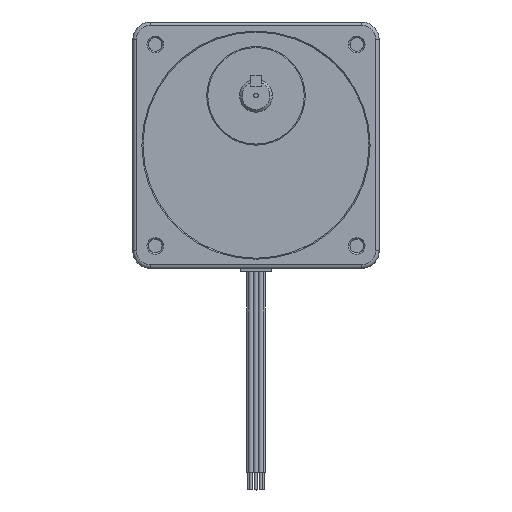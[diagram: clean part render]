
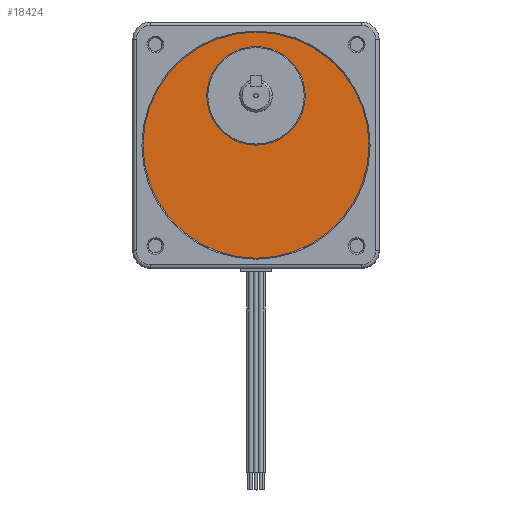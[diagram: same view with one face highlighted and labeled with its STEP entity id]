
A CAD part, top view. The second image highlights one B-rep face of the part: STEP entity #18424.
In plain terms, the highlighted planar face has unit normal (0, 0, 1).
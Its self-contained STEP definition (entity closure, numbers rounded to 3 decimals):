
#6746 = CARTESIAN_POINT ( 'NONE',  ( 17.996, 18.009, 41.012 ) ) ;
#7192 = CIRCLE ( 'NONE', #7262, 17.996 ) ;
#7259 = DIRECTION ( 'NONE',  ( 1., 0., 0. ) ) ;
#7260 = DIRECTION ( 'NONE',  ( 0., 0., 1. ) ) ;
#7261 = CARTESIAN_POINT ( 'NONE',  ( 0., 18.009, 41.012 ) ) ;
#7262 = AXIS2_PLACEMENT_3D ( 'NONE', #7261, #7260, #7259 ) ;
#7282 = CIRCLE ( 'NONE', #7312, 41.275 ) ;
#7284 = CARTESIAN_POINT ( 'NONE',  ( 0., 0., 41.012 ) ) ;
#7304 = CARTESIAN_POINT ( 'NONE',  ( -41.275, 0., 41.012 ) ) ;
#7306 = CARTESIAN_POINT ( 'NONE',  ( 41.275, 0., 41.012 ) ) ;
#7309 = CARTESIAN_POINT ( 'NONE',  ( -17.996, 18.009, 41.012 ) ) ;
#7310 = DIRECTION ( 'NONE',  ( 1., 0., 0. ) ) ;
#7311 = DIRECTION ( 'NONE',  ( 0., 0., 1. ) ) ;
#7312 = AXIS2_PLACEMENT_3D ( 'NONE', #7284, #7311, #7310 ) ;
#11025 = CIRCLE ( 'NONE', #11052, 41.275 ) ;
#11050 = DIRECTION ( 'NONE',  ( 1., 0., 0. ) ) ;
#11051 = DIRECTION ( 'NONE',  ( 0., 0., 1. ) ) ;
#11052 = AXIS2_PLACEMENT_3D ( 'NONE', #11059, #11051, #11050 ) ;
#11059 = CARTESIAN_POINT ( 'NONE',  ( 0., 0., 41.012 ) ) ;
#11138 = FACE_BOUND ( 'NONE', #18422, .T. ) ;
#11167 = FACE_OUTER_BOUND ( 'NONE', #18349, .T. ) ;
#11194 = DIRECTION ( 'NONE',  ( 1., 0., 0. ) ) ;
#11195 = DIRECTION ( 'NONE',  ( 0., 0., 1. ) ) ;
#11196 = CARTESIAN_POINT ( 'NONE',  ( 0., 18.009, 41.012 ) ) ;
#11197 = AXIS2_PLACEMENT_3D ( 'NONE', #11196, #11195, #11194 ) ;
#11208 = CIRCLE ( 'NONE', #11197, 17.996 ) ;
#11209 = DIRECTION ( 'NONE',  ( 1., 0., 0. ) ) ;
#11210 = DIRECTION ( 'NONE',  ( 0., 0., 1. ) ) ;
#11211 = CARTESIAN_POINT ( 'NONE',  ( 0., 0., 41.012 ) ) ;
#11212 = AXIS2_PLACEMENT_3D ( 'NONE', #11211, #11210, #11209 ) ;
#11213 = PLANE ( 'NONE',  #11212 ) ;
#16859 = VERTEX_POINT ( 'NONE', #6746 ) ;
#17011 = EDGE_CURVE ( 'NONE', #16859, #17022, #7192, .T. ) ;
#17020 = EDGE_CURVE ( 'NONE', #17029, #17024, #7282, .T. ) ;
#17022 = VERTEX_POINT ( 'NONE', #7309 ) ;
#17024 = VERTEX_POINT ( 'NONE', #7306 ) ;
#17029 = VERTEX_POINT ( 'NONE', #7304 ) ;
#18349 = EDGE_LOOP ( 'NONE', ( #18421, #18426 ) ) ;
#18350 = ORIENTED_EDGE ( 'NONE', *, *, #18427, .F. ) ;
#18378 = EDGE_CURVE ( 'NONE', #17024, #17029, #11025, .T. ) ;
#18420 = ORIENTED_EDGE ( 'NONE', *, *, #17011, .F. ) ;
#18421 = ORIENTED_EDGE ( 'NONE', *, *, #18378, .T. ) ;
#18422 = EDGE_LOOP ( 'NONE', ( #18350, #18420 ) ) ;
#18424 = ADVANCED_FACE ( 'NONE', ( #11167, #11138 ), #11213, .T. ) ;
#18426 = ORIENTED_EDGE ( 'NONE', *, *, #17020, .T. ) ;
#18427 = EDGE_CURVE ( 'NONE', #17022, #16859, #11208, .T. ) ;
